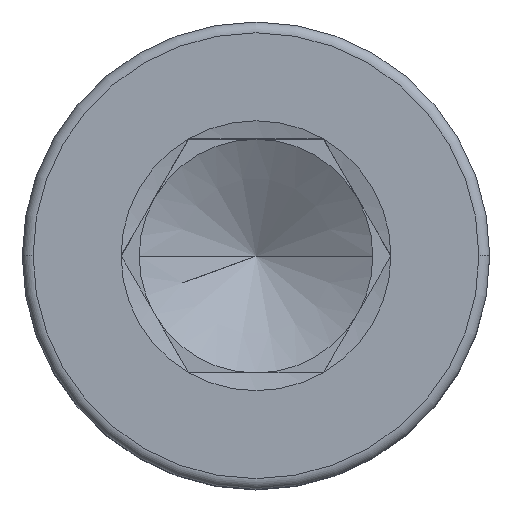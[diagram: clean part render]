
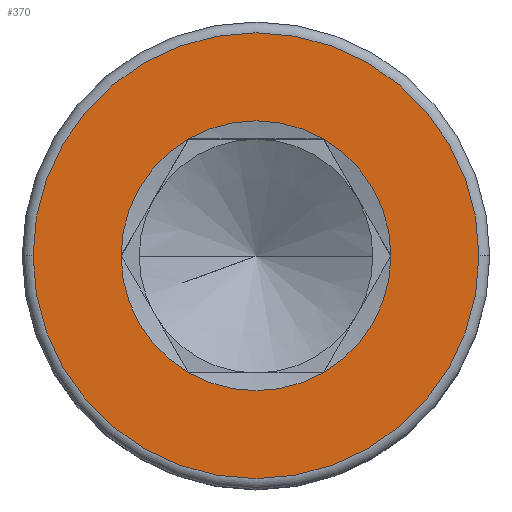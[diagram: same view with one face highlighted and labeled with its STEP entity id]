
A CAD part, top view. The second image highlights one B-rep face of the part: STEP entity #370.
In plain terms, the highlighted planar face has unit normal (0, 0, 1).
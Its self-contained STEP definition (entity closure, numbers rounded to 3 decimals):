
#25 = DIRECTION ( 'NONE',  ( 0., 0., 1. ) ) ;
#31 = DIRECTION ( 'NONE',  ( 0., 0., 1. ) ) ;
#42 = AXIS2_PLACEMENT_3D ( 'NONE', #62, #626, #1168 ) ;
#62 = CARTESIAN_POINT ( 'NONE',  ( 0., 0., 10. ) ) ;
#70 = FACE_OUTER_BOUND ( 'NONE', #395, .T. ) ;
#73 = ORIENTED_EDGE ( 'NONE', *, *, #1534, .F. ) ;
#74 = CIRCLE ( 'NONE', #1205, 4.619 ) ;
#78 = CARTESIAN_POINT ( 'NONE',  ( 0., 0., 10. ) ) ;
#123 = EDGE_CURVE ( 'NONE', #1428, #600, #1333, .T. ) ;
#179 = CARTESIAN_POINT ( 'NONE',  ( -2.309, -4., 10. ) ) ;
#199 = DIRECTION ( 'NONE',  ( 0., 0., 1. ) ) ;
#232 = CARTESIAN_POINT ( 'NONE',  ( 2.309, 4., 10. ) ) ;
#250 = CIRCLE ( 'NONE', #1388, 4.619 ) ;
#288 = ORIENTED_EDGE ( 'NONE', *, *, #450, .T. ) ;
#309 = CIRCLE ( 'NONE', #1416, 4.619 ) ;
#323 = FACE_BOUND ( 'NONE', #1139, .T. ) ;
#353 = EDGE_CURVE ( 'NONE', #947, #486, #1175, .T. ) ;
#370 = ADVANCED_FACE ( 'NONE', ( #70, #323 ), #635, .T. ) ;
#395 = EDGE_LOOP ( 'NONE', ( #676, #288 ) ) ;
#411 = ORIENTED_EDGE ( 'NONE', *, *, #603, .F. ) ;
#450 = EDGE_CURVE ( 'NONE', #486, #947, #667, .T. ) ;
#486 = VERTEX_POINT ( 'NONE', #1617 ) ;
#501 = DIRECTION ( 'NONE',  ( 0., 0., 1. ) ) ;
#545 = ORIENTED_EDGE ( 'NONE', *, *, #123, .F. ) ;
#600 = VERTEX_POINT ( 'NONE', #1645 ) ;
#603 = EDGE_CURVE ( 'NONE', #1663, #1098, #74, .T. ) ;
#622 = DIRECTION ( 'NONE',  ( 1., 0., 0. ) ) ;
#626 = DIRECTION ( 'NONE',  ( 0., 0., 1. ) ) ;
#635 = PLANE ( 'NONE',  #1547 ) ;
#667 = CIRCLE ( 'NONE', #42, 7.63 ) ;
#676 = ORIENTED_EDGE ( 'NONE', *, *, #353, .T. ) ;
#740 = DIRECTION ( 'NONE',  ( 1., 0., 0. ) ) ;
#760 = CARTESIAN_POINT ( 'NONE',  ( -2.309, 4., 10. ) ) ;
#840 = CARTESIAN_POINT ( 'NONE',  ( 0., 0., 10. ) ) ;
#844 = DIRECTION ( 'NONE',  ( 0., 0., 1. ) ) ;
#885 = CARTESIAN_POINT ( 'NONE',  ( 0., 0., 10. ) ) ;
#889 = CARTESIAN_POINT ( 'NONE',  ( 0., 0., 10. ) ) ;
#947 = VERTEX_POINT ( 'NONE', #1253 ) ;
#1007 = CARTESIAN_POINT ( 'NONE',  ( 0., 0., 10. ) ) ;
#1032 = DIRECTION ( 'NONE',  ( 0., 0., 1. ) ) ;
#1049 = DIRECTION ( 'NONE',  ( 1., 0., 0. ) ) ;
#1053 = CARTESIAN_POINT ( 'NONE',  ( -4.619, 0., 10. ) ) ;
#1098 = VERTEX_POINT ( 'NONE', #1053 ) ;
#1104 = ORIENTED_EDGE ( 'NONE', *, *, #1283, .F. ) ;
#1108 = DIRECTION ( 'NONE',  ( 1., 0., 0. ) ) ;
#1139 = EDGE_LOOP ( 'NONE', ( #1365, #545, #1104, #1530, #411, #73 ) ) ;
#1152 = AXIS2_PLACEMENT_3D ( 'NONE', #840, #25, #1408 ) ;
#1168 = DIRECTION ( 'NONE',  ( 1., 0., 0. ) ) ;
#1175 = CIRCLE ( 'NONE', #1696, 7.63 ) ;
#1179 = DIRECTION ( 'NONE',  ( 1., 0., 0. ) ) ;
#1182 = CIRCLE ( 'NONE', #1579, 4.619 ) ;
#1183 = CARTESIAN_POINT ( 'NONE',  ( 0., 0., 10. ) ) ;
#1205 = AXIS2_PLACEMENT_3D ( 'NONE', #1509, #844, #1108 ) ;
#1253 = CARTESIAN_POINT ( 'NONE',  ( 7.63, 0., 10. ) ) ;
#1283 = EDGE_CURVE ( 'NONE', #1468, #1428, #1703, .T. ) ;
#1290 = CARTESIAN_POINT ( 'NONE',  ( 0., 0., 10. ) ) ;
#1299 = DIRECTION ( 'NONE',  ( 0., 0., 1. ) ) ;
#1333 = CIRCLE ( 'NONE', #1553, 4.619 ) ;
#1365 = ORIENTED_EDGE ( 'NONE', *, *, #1499, .F. ) ;
#1388 = AXIS2_PLACEMENT_3D ( 'NONE', #889, #1299, #1707 ) ;
#1408 = DIRECTION ( 'NONE',  ( 1., 0., 0. ) ) ;
#1416 = AXIS2_PLACEMENT_3D ( 'NONE', #1007, #1032, #622 ) ;
#1428 = VERTEX_POINT ( 'NONE', #1715 ) ;
#1455 = DIRECTION ( 'NONE',  ( 1., 0., 0. ) ) ;
#1468 = VERTEX_POINT ( 'NONE', #179 ) ;
#1479 = EDGE_CURVE ( 'NONE', #1098, #1468, #250, .T. ) ;
#1499 = EDGE_CURVE ( 'NONE', #600, #1699, #1182, .T. ) ;
#1509 = CARTESIAN_POINT ( 'NONE',  ( 0., 0., 10. ) ) ;
#1530 = ORIENTED_EDGE ( 'NONE', *, *, #1479, .F. ) ;
#1534 = EDGE_CURVE ( 'NONE', #1699, #1663, #309, .T. ) ;
#1547 = AXIS2_PLACEMENT_3D ( 'NONE', #885, #31, #1179 ) ;
#1553 = AXIS2_PLACEMENT_3D ( 'NONE', #1183, #199, #1455 ) ;
#1579 = AXIS2_PLACEMENT_3D ( 'NONE', #78, #1717, #740 ) ;
#1617 = CARTESIAN_POINT ( 'NONE',  ( -7.63, 0., 10. ) ) ;
#1645 = CARTESIAN_POINT ( 'NONE',  ( 4.619, 0., 10. ) ) ;
#1663 = VERTEX_POINT ( 'NONE', #760 ) ;
#1696 = AXIS2_PLACEMENT_3D ( 'NONE', #1290, #501, #1049 ) ;
#1699 = VERTEX_POINT ( 'NONE', #232 ) ;
#1703 = CIRCLE ( 'NONE', #1152, 4.619 ) ;
#1707 = DIRECTION ( 'NONE',  ( 1., 0., 0. ) ) ;
#1715 = CARTESIAN_POINT ( 'NONE',  ( 2.309, -4., 10. ) ) ;
#1717 = DIRECTION ( 'NONE',  ( 0., 0., 1. ) ) ;
